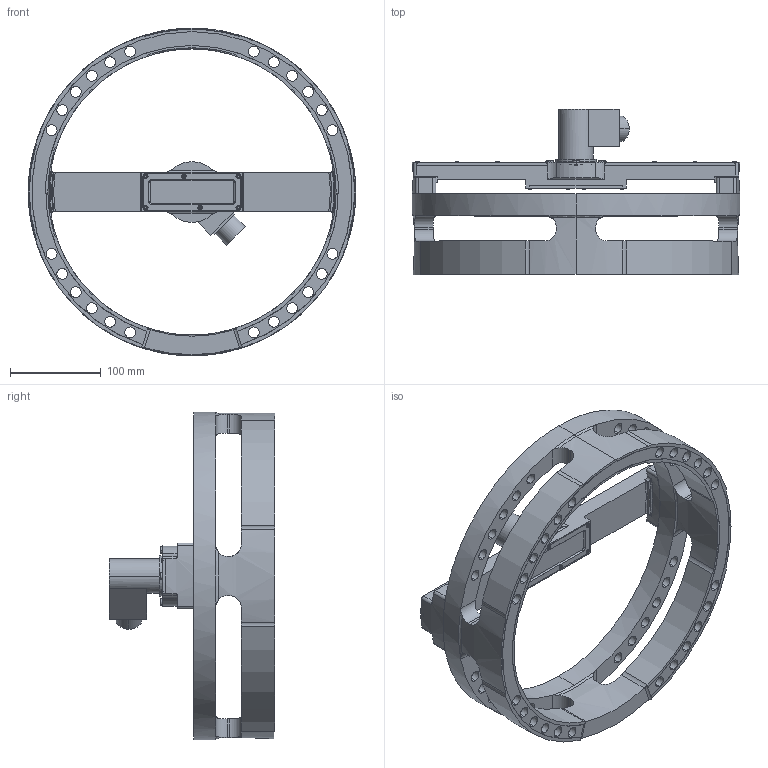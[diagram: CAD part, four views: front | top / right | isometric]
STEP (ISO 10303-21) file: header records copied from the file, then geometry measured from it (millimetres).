
FILE_DESCRIPTION (( 'STEP AP203' ), '1' );
FILE_NAME ('1008054.STEP', '2017-06-30T12:43:54', ( '' ), ( '' ), 'SwSTEP 2.0', 'SolidWorks 2014', '' );
FILE_SCHEMA (( 'CONFIG_CONTROL_DESIGN' ));
Length unit declared in the file: inch
Products named in the file (1): 1008054
Bounding box: 360.44 x 182.16 x 360.68 mm (x, y, z)
Volume: 1886227.9 mm3; surface area: 356750.2 mm2
Topology: 1 solids, 11 shells, 1165 faces, 2723 edges, 1663 vertices
Faces by surface type: cylinder 487, plane 369, cone 263, bspline 46
Entity records: 39210 total; most frequent: CARTESIAN_POINT 12439, DIRECTION 5774, ORIENTED_EDGE 5414, EDGE_CURVE 2707, AXIS2_PLACEMENT_3D 2340, VERTEX_POINT 1663, EDGE_LOOP 1380, CIRCLE 1220
